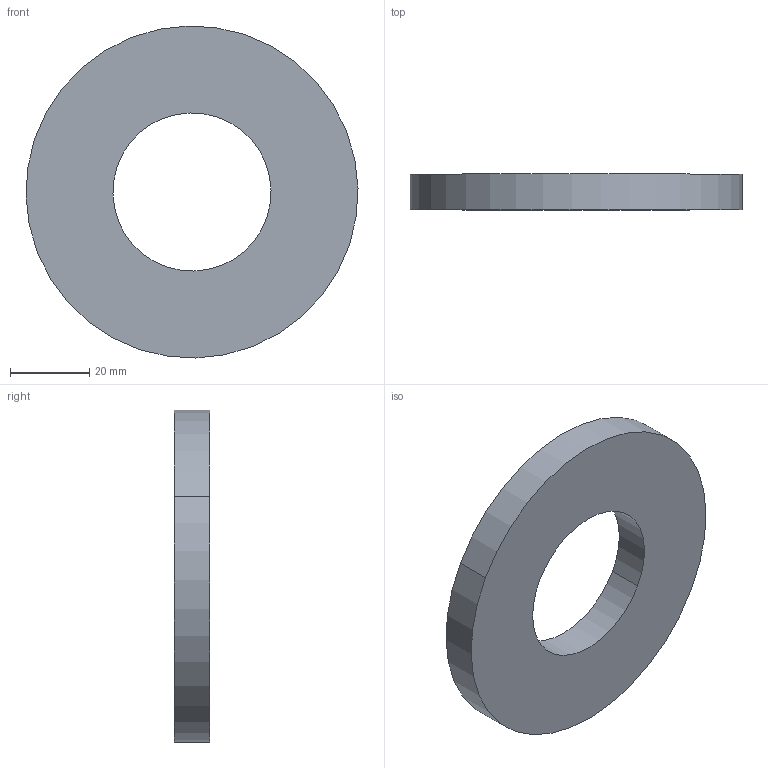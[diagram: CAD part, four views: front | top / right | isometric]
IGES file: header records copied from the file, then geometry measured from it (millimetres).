
Start section: START RECORD GO HERE.
Global section: file name: Symmetry of ROUE A ROCHET.igs; native system: IBM CATIA IGES - CATIA Version 5 Release 18 ; preprocessor: CATIA Version 5 Release 18 ; author: Propriétaire; organization: FUJITSU-79916BB; date: 20090111.191753; units: millimetre
Bounding box: 83.98 x 9 x 83.98 mm (x, y, z)
Surface area: 12076.3 mm2 (no closed solid volume)
Topology: 0 solids, 0 shells, 6 faces, 24 edges, 24 vertices
Faces by surface type: revolution 4, plane 2
